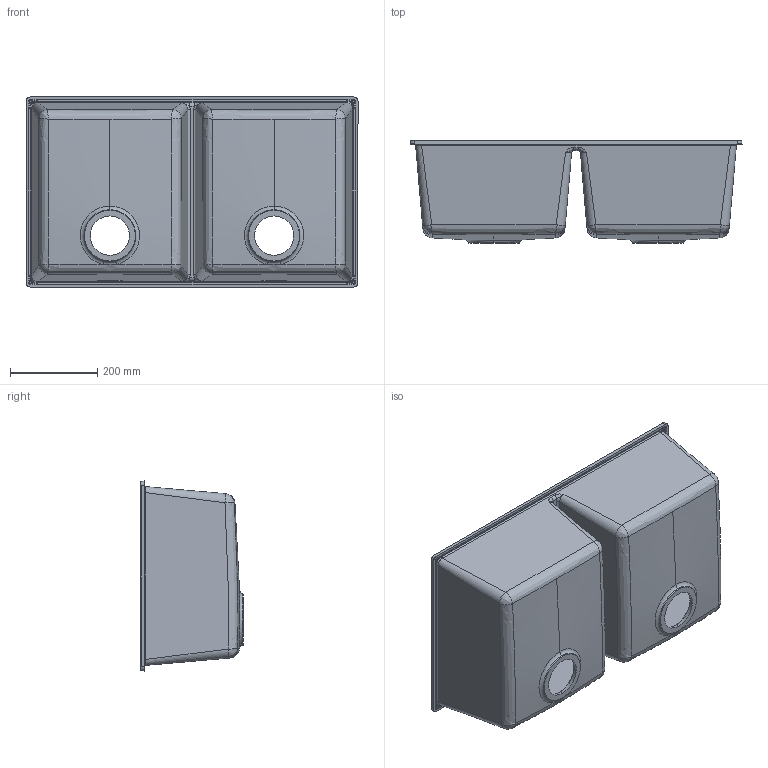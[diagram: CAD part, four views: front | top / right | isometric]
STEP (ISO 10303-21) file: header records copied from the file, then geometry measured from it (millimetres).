
FILE_DESCRIPTION (( 'STEP AP203' ), '1' );
FILE_NAME ('SLQ350BIN.STEP', '2018-11-14T15:56:51', ( '' ), ( '' ), 'SwSTEP 2.0', 'SolidWorks 2013', '' );
FILE_SCHEMA (( 'CONFIG_CONTROL_DESIGN' ));
Length unit declared in the file: millimetre
Products named in the file (1): SLQ350BIN
Bounding box: 760 x 233.53 x 435 mm (x, y, z)
Volume: 6697126.8 mm3; surface area: 1689768.6 mm2
Topology: 1 solids, 1 shells, 284 faces, 710 edges, 396 vertices
Faces by surface type: bspline 138, cylinder 52, plane 38, torus 28, cone 20, sphere 8
Entity records: 15647 total; most frequent: CARTESIAN_POINT 10017, ORIENTED_EDGE 1356, DIRECTION 908, EDGE_CURVE 678, VERTEX_POINT 396, AXIS2_PLACEMENT_3D 381, EDGE_LOOP 292, ADVANCED_FACE 284
